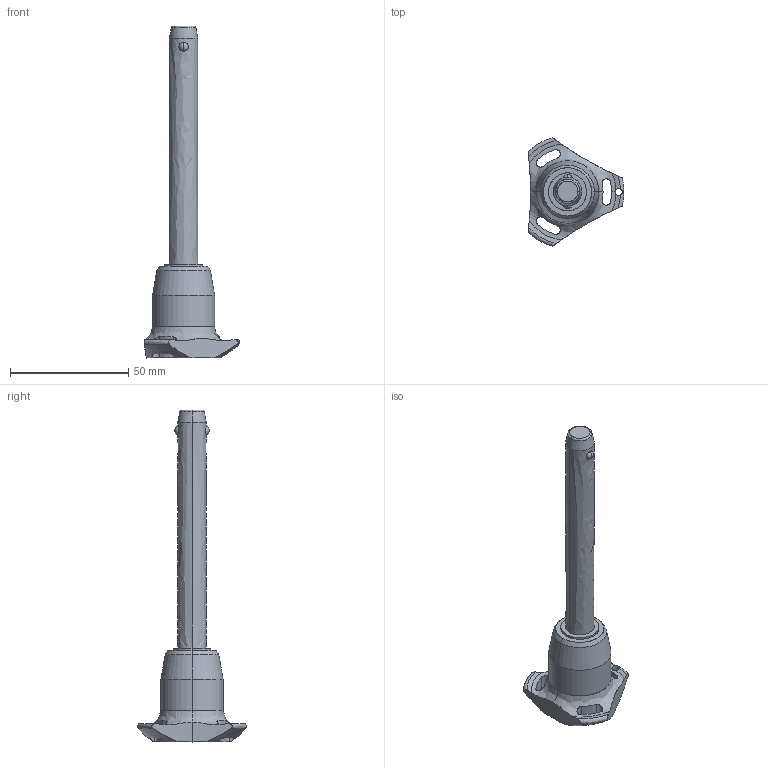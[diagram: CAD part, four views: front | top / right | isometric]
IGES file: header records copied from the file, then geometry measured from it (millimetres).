
Start section: SolidWorks IGES file using analytic representation for surfaces
Global section: file name: C:\Users\ianosborn\Desktop\QR1714_v2\QR1714_v2_20251112_IGES\QR1714.M12-090-S.igs; native system: SolidWorks 2019; preprocessor: SolidWorks 2019; author: IanOsborn; date: 251112.101731; units: millimetre
Bounding box: 40.5 x 45.88 x 140.3 mm (x, y, z)
Surface area: 9730.5 mm2 (no closed solid volume)
Topology: 0 solids, 0 shells, 65 faces, 1363 edges, 1359 vertices
Faces by surface type: revolution 50, bspline 15
